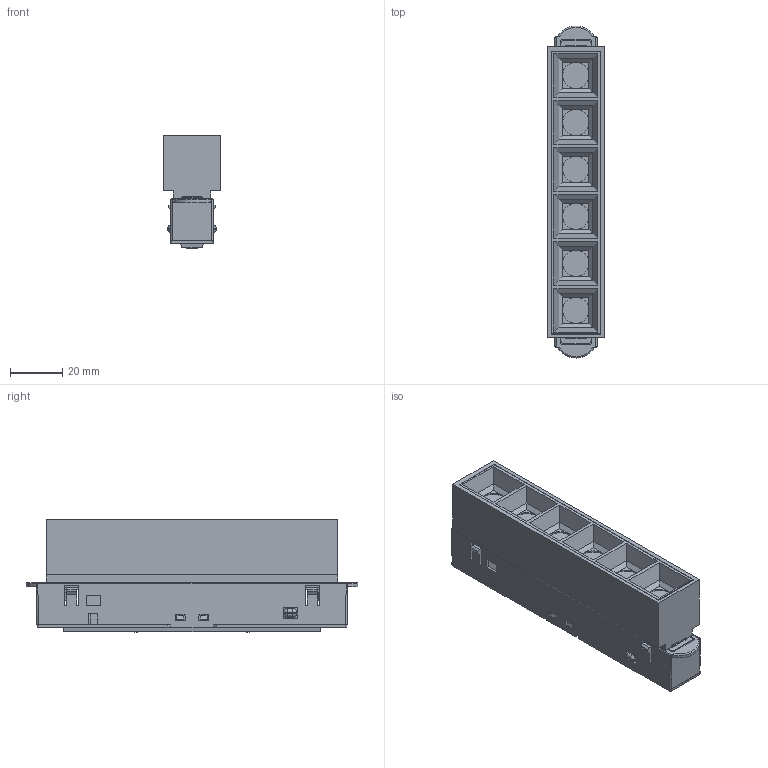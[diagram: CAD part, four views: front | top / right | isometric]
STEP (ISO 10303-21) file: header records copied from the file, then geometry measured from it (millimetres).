
FILE_DESCRIPTION((''),'2;1');
FILE_NAME('410097-AS_ASM','2022-11-10T',('Administrator'),(''),'PRO/ENGINEER BY PARAMETRIC TECHNOLOGY CORPORATION, 2015070','PRO/ENGINEER BY PARAMETRIC TECHNOLOGY CORPORATION, 2015070','');
FILE_SCHEMA(('CONFIG_CONTROL_DESIGN','SHAPE_APPEARANCE_LAYERS_GROUPS'));
Products named in the file (25): GESHAN-12-TOU_5; ZUJIAN-GESHAN-12_ASM_9_ASM_ASM; 410097-A_ASM_ASM; MANIFOLD_SOLID_BREP_5198; MANIFOLD_SOLID_BREP_5197; ZUJIAN_TOUJING_6_ASM; MANIFOLD_SOLID_BREP_5140_2; _________________M2_5X5; MANIFOLD_SOLID_BREP_5136_8; 03_X_T; MANIFOLD_SOLID_BREP_5132_2; MANIFOLD_SOLID_BREP_5139_2; MANIFOLD_SOLID_BREP_5135_2; MANIFOLD_SOLID_BREP_53625; MANIFOLD_SOLID_BREP_45179; 08-22-W1_37_ASM_ASM; MANIFOLD_SOLID_BREP_5138_2; ________________M3X6; MANIFOLD_SOLID_BREP_5134_2; 08-20-PC1_6; MANIFOLD_SOLID_BREP_5137_2; MANIFOLD_SOLID_BREP_5133_2; 20__________________________GN-_ASM; 20_GN-CX01-7-1_ASM; 410097-AS_ASM
Assembly tree (26 placements, depth 5):
  410097-AS_ASM
    410097-A_ASM_ASM
      ZUJIAN-GESHAN-12_ASM_9_ASM_ASM
        GESHAN-12-TOU_5
    ZUJIAN_TOUJING_6_ASM
      MANIFOLD_SOLID_BREP_5198
      MANIFOLD_SOLID_BREP_5197
    20_GN-CX01-7-1_ASM
      20__________________________GN-_ASM
        MANIFOLD_SOLID_BREP_5140_2
        _________________M2_5X5  x2
        MANIFOLD_SOLID_BREP_5136_8
        03_X_T
        MANIFOLD_SOLID_BREP_5132_2
        MANIFOLD_SOLID_BREP_5139_2
        MANIFOLD_SOLID_BREP_5135_2
        08-22-W1_37_ASM_ASM
          MANIFOLD_SOLID_BREP_53625
          MANIFOLD_SOLID_BREP_45179
        MANIFOLD_SOLID_BREP_5138_2
        ________________M3X6  x2
        MANIFOLD_SOLID_BREP_5134_2
        08-20-PC1_6
        MANIFOLD_SOLID_BREP_5137_2
        MANIFOLD_SOLID_BREP_5133_2
Bounding box: 22 x 126.5 x 43 mm (x, y, z)
Volume: 39160.4 mm3; surface area: 58585.8 mm2
Topology: 20 solids, 21 shells, 1995 faces, 5343 edges, 3449 vertices
Faces by surface type: plane 1251, cylinder 424, cone 134, bspline 125, torus 58, extrusion 3
Entity records: 72324 total; most frequent: CARTESIAN_POINT 18982, ORIENTED_EDGE 10478, DIRECTION 9496, EDGE_CURVE 5239, VECTOR 3598, LINE 3595, VERTEX_POINT 3390, AXIS2_PLACEMENT_3D 2949
